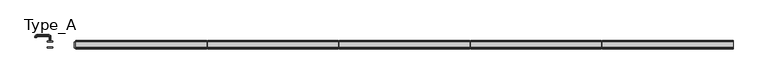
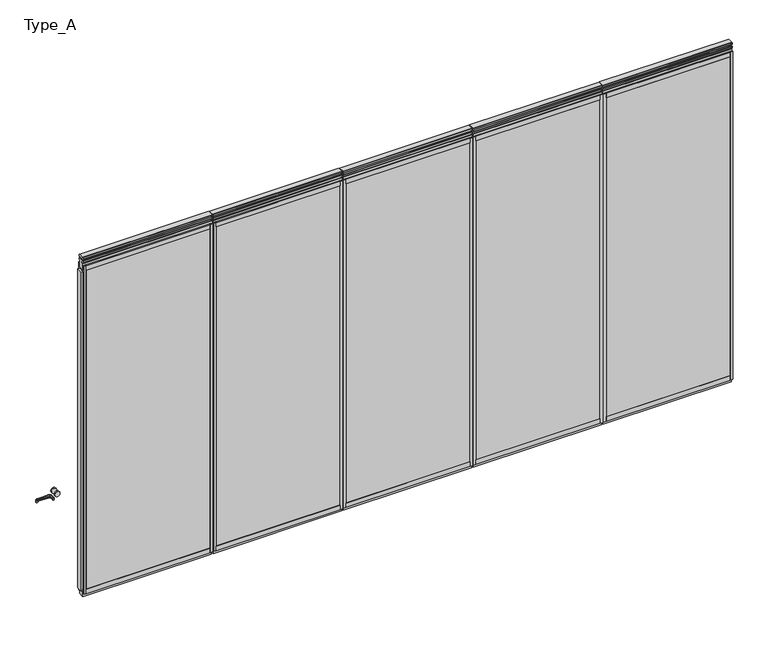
"""IFC4 building model written with IfcOpenShell, lengths in millimetres: proxy geometry, Planner Wall_ダブルガラス(Door) : Type_A."""

from ifc_helpers import new_model, si_unit, point, frame, frame_2d, origin, origin_with_axes, place, context, project, spatial, polyline, circle_curve, ellipse_curve, trimmed, segment, composite_curve, outline, extrude, source, transform, mapped, element, save
from ifc_brep_helpers import plane_surface, cylinder_surface, revolved_surface, advanced_brep


def type_a_e4121470(model_context):
    return source(origin(), model_context, "Body", "SolidModel", [
        extrude(outline(polyline([(1127.9285714, -25.0), (1127.9285714, 25.0), (2220.8571429, 25.0), (2220.8571429, -25.0), (1127.9285714, -25.0)])), origin_with_axes(), (0.0, 0.0, 1.0), 65.0),
        extrude(outline(polyline([(2204.3571429, 25.0), (1149.9285714, 25.0), (1149.9285714, 35.0), (2204.3571429, 35.0), (2204.3571429, 25.0)])), frame((0.0, 0.0, 2935.0), z_axis=(0.0, 0.0, 1.0), x_axis=(1.0, 0.0, 0.0)), (0.0, 0.0, 1.0), 40.0),
        extrude(outline(polyline([(2204.3571429, 25.0), (1149.9285714, 25.0), (1149.9285714, 35.0), (2204.3571429, 35.0), (2204.3571429, 25.0)])), frame((0.0, 0.0, 25.0), z_axis=(0.0, 0.0, 1.0), x_axis=(1.0, 0.0, 0.0)), (0.0, 0.0, 1.0), 40.0),
        extrude(outline(polyline([(1167.9285714, -27.0), (1149.9285714, -27.0), (1149.9285714, 27.0), (1167.9285714, 27.0), (1167.9285714, -27.0)])), frame((0.0, 0.0, 65.0), z_axis=(0.0, 0.0, 1.0), x_axis=(1.0, 0.0, 0.0)), (0.0, 0.0, 1.0), 2870.0),
        extrude(outline(polyline([(2204.3571429, -27.0), (2186.3571429, -27.0), (2186.3571429, 27.0), (2204.3571429, 27.0), (2204.3571429, -27.0)])), frame((0.0, 0.0, 65.0), z_axis=(0.0, 0.0, 1.0), x_axis=(1.0, 0.0, 0.0)), (0.0, 0.0, 1.0), 2870.0),
        extrude(outline(polyline([(2186.3571429, -27.0), (1167.9285714, -27.0), (1167.9285714, 27.0), (2186.3571429, 27.0), (2186.3571429, -27.0)])), frame((0.0, 0.0, 65.0), z_axis=(0.0, 0.0, 1.0), x_axis=(1.0, 0.0, 0.0)), (0.0, 0.0, 1.0), 102.0),
        extrude(outline(polyline([(2186.3571429, -27.0), (1167.9285714, -27.0), (1167.9285714, 27.0), (2186.3571429, 27.0), (2186.3571429, -27.0)])), frame((0.0, 0.0, 2833.0), z_axis=(0.0, 0.0, 1.0), x_axis=(1.0, 0.0, 0.0)), (0.0, 0.0, 1.0), 102.0),
        extrude(outline(composite_curve([segment(polyline([(23.5, 3050.1000003), (26.5, 3047.1000003), (26.5, 3032.6)]), True, "CONTINUOUS"), segment(trimmed(circle_curve(frame_2d((25.0, 3032.6)), 1.5), [point((26.5, 3032.6))], [point((25.0, 3031.1))], False, "CARTESIAN"), True, "CONTINUOUS"), segment(polyline([(25.0, 3031.1), (9.0, 3031.1), (9.0, 3019.1000003), (23.5, 3019.1000003), (26.5, 3016.1000003), (26.5, 3001.5)]), True, "CONTINUOUS"), segment(trimmed(circle_curve(frame_2d((25.0, 3001.5)), 1.5), [point((26.5, 3001.5))], [point((25.0, 3000.0))], False, "CARTESIAN"), True, "CONTINUOUS"), segment(polyline([(25.0, 3000.0), (7.5, 3000.0), (7.5, 2994.5), (25.0, 2994.5), (25.0, 2935.0), (-25.0, 2935.0), (-25.0, 2994.5), (-7.5, 2994.5), (-7.5, 3000.0), (-25.0, 3000.0)]), True, "CONTINUOUS"), segment(trimmed(circle_curve(frame_2d((-25.0, 3001.5)), 1.5), [point((-25.0, 3000.0))], [point((-26.5, 3001.5))], False, "CARTESIAN"), True, "CONTINUOUS"), segment(polyline([(-26.5, 3001.5), (-26.5, 3016.1000003), (-23.5, 3019.1000003), (-9.0, 3019.1000003), (-9.0, 3031.1), (-25.0, 3031.1)]), True, "CONTINUOUS"), segment(trimmed(circle_curve(frame_2d((-25.0, 3032.6)), 1.5), [point((-25.0, 3031.1))], [point((-26.5, 3032.6))], False, "CARTESIAN"), True, "CONTINUOUS"), segment(polyline([(-26.5, 3032.6), (-26.5, 3047.1000003), (-23.5, 3050.1000003), (23.5, 3050.1000003)]), True, "CONTINUOUS")], self_intersect=False)), frame((1127.9285714, 0.0, 0.0), z_axis=(1.0, 0.0, 0.0), x_axis=(0.0, 1.0, 0.0)), (0.0, 0.0, 1.0), 1098.4285714),
        extrude(outline(polyline([(2204.3571429, 27.5), (1149.9285714, 27.5), (1149.9285714, 32.5), (2204.3571429, 32.5), (2204.3571429, 27.5)])), frame((0.0, 0.0, 65.0), z_axis=(0.0, 0.0, 1.0), x_axis=(1.0, 0.0, 0.0)), (0.0, 0.0, 1.0), 2870.0),
        extrude(outline(polyline([(2204.3571429, -32.5), (1149.9285714, -32.5), (1149.9285714, -27.5), (2204.3571429, -27.5), (2204.3571429, -32.5)])), frame((0.0, 0.0, 65.0), z_axis=(0.0, 0.0, 1.0), x_axis=(1.0, 0.0, 0.0)), (0.0, 0.0, 1.0), 2870.0),
        extrude(outline(polyline([(2204.3571429, -35.0), (1149.9285714, -35.0), (1149.9285714, -25.0), (2204.3571429, -25.0), (2204.3571429, -35.0)])), frame((0.0, 0.0, 2935.0), z_axis=(0.0, 0.0, 1.0), x_axis=(1.0, 0.0, 0.0)), (0.0, 0.0, 1.0), 40.0),
        extrude(outline(polyline([(2204.3571429, -35.0), (1149.9285714, -35.0), (1149.9285714, -25.0), (2204.3571429, -25.0), (2204.3571429, -35.0)])), frame((0.0, 0.0, 25.0), z_axis=(0.0, 0.0, 1.0), x_axis=(1.0, 0.0, 0.0)), (0.0, 0.0, 1.0), 40.0),
        extrude(outline(polyline([(1114.4285714, -25.0), (1114.4285714, 25.0), (1127.9285714, 25.0), (1127.9285714, -25.0), (1114.4285714, -25.0)])), frame((0.0, 0.0, 53.0), z_axis=(0.0, 0.0, 1.0), x_axis=(1.0, 0.0, 0.0)), (0.0, 0.0, 1.0), 2869.0),
        extrude(outline(polyline([(2204.3571429, 35.0), (2226.3571429, 35.0), (2226.3571429, 25.0), (2204.3571429, 25.0), (2204.3571429, 35.0)])), frame((0.0, 0.0, 25.0), z_axis=(0.0, 0.0, 1.0), x_axis=(1.0, 0.0, 0.0)), (0.0, 0.0, 1.0), 2950.0),
        extrude(outline(polyline([(2204.3571429, -35.0), (2204.3571429, -25.0), (2226.3571429, -25.0), (2226.3571429, -35.0), (2204.3571429, -35.0)])), frame((0.0, 0.0, 25.0), z_axis=(0.0, 0.0, 1.0), x_axis=(1.0, 0.0, 0.0)), (0.0, 0.0, 1.0), 2950.0),
        extrude(outline(polyline([(1127.9285714, -35.0), (1127.9285714, -25.0), (1149.9285714, -25.0), (1149.9285714, -35.0), (1127.9285714, -35.0)])), frame((0.0, 0.0, 25.0), z_axis=(0.0, 0.0, 1.0), x_axis=(1.0, 0.0, 0.0)), (0.0, 0.0, 1.0), 2950.0),
        extrude(outline(polyline([(1127.9285714, 25.0), (1127.9285714, 35.0), (1149.9285714, 35.0), (1149.9285714, 25.0), (1127.9285714, 25.0)])), frame((0.0, 0.0, 25.0), z_axis=(0.0, 0.0, 1.0), x_axis=(1.0, 0.0, 0.0)), (0.0, 0.0, 1.0), 2950.0),
        extrude(outline(polyline([(2234.3571429, -25.0), (2234.3571429, 25.0), (3327.2857143, 25.0), (3327.2857143, -25.0), (2234.3571429, -25.0)])), origin_with_axes(), (0.0, 0.0, 1.0), 65.0),
        extrude(outline(polyline([(3310.7857143, 25.0), (2256.3571429, 25.0), (2256.3571429, 35.0), (3310.7857143, 35.0), (3310.7857143, 25.0)])), frame((0.0, 0.0, 2935.0), z_axis=(0.0, 0.0, 1.0), x_axis=(1.0, 0.0, 0.0)), (0.0, 0.0, 1.0), 40.0),
        extrude(outline(polyline([(3310.7857143, 25.0), (2256.3571429, 25.0), (2256.3571429, 35.0), (3310.7857143, 35.0), (3310.7857143, 25.0)])), frame((0.0, 0.0, 25.0), z_axis=(0.0, 0.0, 1.0), x_axis=(1.0, 0.0, 0.0)), (0.0, 0.0, 1.0), 40.0),
        extrude(outline(polyline([(2274.3571429, -27.0), (2256.3571429, -27.0), (2256.3571429, 27.0), (2274.3571429, 27.0), (2274.3571429, -27.0)])), frame((0.0, 0.0, 65.0), z_axis=(0.0, 0.0, 1.0), x_axis=(1.0, 0.0, 0.0)), (0.0, 0.0, 1.0), 2870.0),
        extrude(outline(polyline([(3310.7857143, -27.0), (3292.7857143, -27.0), (3292.7857143, 27.0), (3310.7857143, 27.0), (3310.7857143, -27.0)])), frame((0.0, 0.0, 65.0), z_axis=(0.0, 0.0, 1.0), x_axis=(1.0, 0.0, 0.0)), (0.0, 0.0, 1.0), 2870.0),
        extrude(outline(polyline([(3292.7857143, -27.0), (2274.3571429, -27.0), (2274.3571429, 27.0), (3292.7857143, 27.0), (3292.7857143, -27.0)])), frame((0.0, 0.0, 65.0), z_axis=(0.0, 0.0, 1.0), x_axis=(1.0, 0.0, 0.0)), (0.0, 0.0, 1.0), 102.0),
        extrude(outline(polyline([(3292.7857143, -27.0), (2274.3571429, -27.0), (2274.3571429, 27.0), (3292.7857143, 27.0), (3292.7857143, -27.0)])), frame((0.0, 0.0, 2833.0), z_axis=(0.0, 0.0, 1.0), x_axis=(1.0, 0.0, 0.0)), (0.0, 0.0, 1.0), 102.0),
        extrude(outline(composite_curve([segment(polyline([(23.5, 3050.1000003), (26.5, 3047.1000003), (26.5, 3032.6)]), True, "CONTINUOUS"), segment(trimmed(circle_curve(frame_2d((25.0, 3032.6)), 1.5), [point((26.5, 3032.6))], [point((25.0, 3031.1))], False, "CARTESIAN"), True, "CONTINUOUS"), segment(polyline([(25.0, 3031.1), (9.0, 3031.1), (9.0, 3019.1000003), (23.5, 3019.1000003), (26.5, 3016.1000003), (26.5, 3001.5)]), True, "CONTINUOUS"), segment(trimmed(circle_curve(frame_2d((25.0, 3001.5)), 1.5), [point((26.5, 3001.5))], [point((25.0, 3000.0))], False, "CARTESIAN"), True, "CONTINUOUS"), segment(polyline([(25.0, 3000.0), (7.5, 3000.0), (7.5, 2994.5), (25.0, 2994.5), (25.0, 2935.0), (-25.0, 2935.0), (-25.0, 2994.5), (-7.5, 2994.5), (-7.5, 3000.0), (-25.0, 3000.0)]), True, "CONTINUOUS"), segment(trimmed(circle_curve(frame_2d((-25.0, 3001.5)), 1.5), [point((-25.0, 3000.0))], [point((-26.5, 3001.5))], False, "CARTESIAN"), True, "CONTINUOUS"), segment(polyline([(-26.5, 3001.5), (-26.5, 3016.1000003), (-23.5, 3019.1000003), (-9.0, 3019.1000003), (-9.0, 3031.1), (-25.0, 3031.1)]), True, "CONTINUOUS"), segment(trimmed(circle_curve(frame_2d((-25.0, 3032.6)), 1.5), [point((-25.0, 3031.1))], [point((-26.5, 3032.6))], False, "CARTESIAN"), True, "CONTINUOUS"), segment(polyline([(-26.5, 3032.6), (-26.5, 3047.1000003), (-23.5, 3050.1000003), (23.5, 3050.1000003)]), True, "CONTINUOUS")], self_intersect=False)), frame((2234.3571429, 0.0, 0.0), z_axis=(1.0, 0.0, 0.0), x_axis=(0.0, 1.0, 0.0)), (0.0, 0.0, 1.0), 1098.4285714),
        extrude(outline(polyline([(3310.7857143, 27.5), (2256.3571429, 27.5), (2256.3571429, 32.5), (3310.7857143, 32.5), (3310.7857143, 27.5)])), frame((0.0, 0.0, 65.0), z_axis=(0.0, 0.0, 1.0), x_axis=(1.0, 0.0, 0.0)), (0.0, 0.0, 1.0), 2870.0),
        extrude(outline(polyline([(3310.7857143, -32.5), (2256.3571429, -32.5), (2256.3571429, -27.5), (3310.7857143, -27.5), (3310.7857143, -32.5)])), frame((0.0, 0.0, 65.0), z_axis=(0.0, 0.0, 1.0), x_axis=(1.0, 0.0, 0.0)), (0.0, 0.0, 1.0), 2870.0),
        extrude(outline(polyline([(3310.7857143, -35.0), (2256.3571429, -35.0), (2256.3571429, -25.0), (3310.7857143, -25.0), (3310.7857143, -35.0)])), frame((0.0, 0.0, 2935.0), z_axis=(0.0, 0.0, 1.0), x_axis=(1.0, 0.0, 0.0)), (0.0, 0.0, 1.0), 40.0),
        extrude(outline(polyline([(3310.7857143, -35.0), (2256.3571429, -35.0), (2256.3571429, -25.0), (3310.7857143, -25.0), (3310.7857143, -35.0)])), frame((0.0, 0.0, 25.0), z_axis=(0.0, 0.0, 1.0), x_axis=(1.0, 0.0, 0.0)), (0.0, 0.0, 1.0), 40.0),
        extrude(outline(polyline([(2220.8571429, -25.0), (2220.8571429, 25.0), (2234.3571429, 25.0), (2234.3571429, -25.0), (2220.8571429, -25.0)])), frame((0.0, 0.0, 53.0), z_axis=(0.0, 0.0, 1.0), x_axis=(1.0, 0.0, 0.0)), (0.0, 0.0, 1.0), 2869.0),
        extrude(outline(polyline([(3310.7857143, 35.0), (3332.7857143, 35.0), (3332.7857143, 25.0), (3310.7857143, 25.0), (3310.7857143, 35.0)])), frame((0.0, 0.0, 25.0), z_axis=(0.0, 0.0, 1.0), x_axis=(1.0, 0.0, 0.0)), (0.0, 0.0, 1.0), 2950.0),
        extrude(outline(polyline([(3310.7857143, -35.0), (3310.7857143, -25.0), (3332.7857143, -25.0), (3332.7857143, -35.0), (3310.7857143, -35.0)])), frame((0.0, 0.0, 25.0), z_axis=(0.0, 0.0, 1.0), x_axis=(1.0, 0.0, 0.0)), (0.0, 0.0, 1.0), 2950.0),
        extrude(outline(polyline([(2234.3571429, -35.0), (2234.3571429, -25.0), (2256.3571429, -25.0), (2256.3571429, -35.0), (2234.3571429, -35.0)])), frame((0.0, 0.0, 25.0), z_axis=(0.0, 0.0, 1.0), x_axis=(1.0, 0.0, 0.0)), (0.0, 0.0, 1.0), 2950.0),
        extrude(outline(polyline([(2234.3571429, 25.0), (2234.3571429, 35.0), (2256.3571429, 35.0), (2256.3571429, 25.0), (2234.3571429, 25.0)])), frame((0.0, 0.0, 25.0), z_axis=(0.0, 0.0, 1.0), x_axis=(1.0, 0.0, 0.0)), (0.0, 0.0, 1.0), 2950.0),
        extrude(outline(polyline([(3340.7857143, -25.0), (3340.7857143, 25.0), (4433.7142857, 25.0), (4433.7142857, -25.0), (3340.7857143, -25.0)])), origin_with_axes(), (0.0, 0.0, 1.0), 65.0),
        extrude(outline(polyline([(4417.2142857, 25.0), (3362.7857143, 25.0), (3362.7857143, 35.0), (4417.2142857, 35.0), (4417.2142857, 25.0)])), frame((0.0, 0.0, 2935.0), z_axis=(0.0, 0.0, 1.0), x_axis=(1.0, 0.0, 0.0)), (0.0, 0.0, 1.0), 40.0),
        extrude(outline(polyline([(4417.2142857, 25.0), (3362.7857143, 25.0), (3362.7857143, 35.0), (4417.2142857, 35.0), (4417.2142857, 25.0)])), frame((0.0, 0.0, 25.0), z_axis=(0.0, 0.0, 1.0), x_axis=(1.0, 0.0, 0.0)), (0.0, 0.0, 1.0), 40.0),
        extrude(outline(polyline([(3380.7857143, -27.0), (3362.7857143, -27.0), (3362.7857143, 27.0), (3380.7857143, 27.0), (3380.7857143, -27.0)])), frame((0.0, 0.0, 65.0), z_axis=(0.0, 0.0, 1.0), x_axis=(1.0, 0.0, 0.0)), (0.0, 0.0, 1.0), 2870.0),
        extrude(outline(polyline([(4417.2142857, -27.0), (4399.2142857, -27.0), (4399.2142857, 27.0), (4417.2142857, 27.0), (4417.2142857, -27.0)])), frame((0.0, 0.0, 65.0), z_axis=(0.0, 0.0, 1.0), x_axis=(1.0, 0.0, 0.0)), (0.0, 0.0, 1.0), 2870.0),
        extrude(outline(polyline([(4399.2142857, -27.0), (3380.7857143, -27.0), (3380.7857143, 27.0), (4399.2142857, 27.0), (4399.2142857, -27.0)])), frame((0.0, 0.0, 65.0), z_axis=(0.0, 0.0, 1.0), x_axis=(1.0, 0.0, 0.0)), (0.0, 0.0, 1.0), 102.0),
        extrude(outline(polyline([(4399.2142857, -27.0), (3380.7857143, -27.0), (3380.7857143, 27.0), (4399.2142857, 27.0), (4399.2142857, -27.0)])), frame((0.0, 0.0, 2833.0), z_axis=(0.0, 0.0, 1.0), x_axis=(1.0, 0.0, 0.0)), (0.0, 0.0, 1.0), 102.0),
        extrude(outline(composite_curve([segment(polyline([(23.5, 3050.1000003), (26.5, 3047.1000003), (26.5, 3032.6)]), True, "CONTINUOUS"), segment(trimmed(circle_curve(frame_2d((25.0, 3032.6)), 1.5), [point((26.5, 3032.6))], [point((25.0, 3031.1))], False, "CARTESIAN"), True, "CONTINUOUS"), segment(polyline([(25.0, 3031.1), (9.0, 3031.1), (9.0, 3019.1000003), (23.5, 3019.1000003), (26.5, 3016.1000003), (26.5, 3001.5)]), True, "CONTINUOUS"), segment(trimmed(circle_curve(frame_2d((25.0, 3001.5)), 1.5), [point((26.5, 3001.5))], [point((25.0, 3000.0))], False, "CARTESIAN"), True, "CONTINUOUS"), segment(polyline([(25.0, 3000.0), (7.5, 3000.0), (7.5, 2994.5), (25.0, 2994.5), (25.0, 2935.0), (-25.0, 2935.0), (-25.0, 2994.5), (-7.5, 2994.5), (-7.5, 3000.0), (-25.0, 3000.0)]), True, "CONTINUOUS"), segment(trimmed(circle_curve(frame_2d((-25.0, 3001.5)), 1.5), [point((-25.0, 3000.0))], [point((-26.5, 3001.5))], False, "CARTESIAN"), True, "CONTINUOUS"), segment(polyline([(-26.5, 3001.5), (-26.5, 3016.1000003), (-23.5, 3019.1000003), (-9.0, 3019.1000003), (-9.0, 3031.1), (-25.0, 3031.1)]), True, "CONTINUOUS"), segment(trimmed(circle_curve(frame_2d((-25.0, 3032.6)), 1.5), [point((-25.0, 3031.1))], [point((-26.5, 3032.6))], False, "CARTESIAN"), True, "CONTINUOUS"), segment(polyline([(-26.5, 3032.6), (-26.5, 3047.1000003), (-23.5, 3050.1000003), (23.5, 3050.1000003)]), True, "CONTINUOUS")], self_intersect=False)), frame((3340.7857143, 0.0, 0.0), z_axis=(1.0, 0.0, 0.0), x_axis=(0.0, 1.0, 0.0)), (0.0, 0.0, 1.0), 1098.4285714),
        extrude(outline(polyline([(4417.2142857, 27.5), (3362.7857143, 27.5), (3362.7857143, 32.5), (4417.2142857, 32.5), (4417.2142857, 27.5)])), frame((0.0, 0.0, 65.0), z_axis=(0.0, 0.0, 1.0), x_axis=(1.0, 0.0, 0.0)), (0.0, 0.0, 1.0), 2870.0),
        extrude(outline(polyline([(4417.2142857, -32.5), (3362.7857143, -32.5), (3362.7857143, -27.5), (4417.2142857, -27.5), (4417.2142857, -32.5)])), frame((0.0, 0.0, 65.0), z_axis=(0.0, 0.0, 1.0), x_axis=(1.0, 0.0, 0.0)), (0.0, 0.0, 1.0), 2870.0),
        extrude(outline(polyline([(4417.2142857, -35.0), (3362.7857143, -35.0), (3362.7857143, -25.0), (4417.2142857, -25.0), (4417.2142857, -35.0)])), frame((0.0, 0.0, 2935.0), z_axis=(0.0, 0.0, 1.0), x_axis=(1.0, 0.0, 0.0)), (0.0, 0.0, 1.0), 40.0),
        extrude(outline(polyline([(4417.2142857, -35.0), (3362.7857143, -35.0), (3362.7857143, -25.0), (4417.2142857, -25.0), (4417.2142857, -35.0)])), frame((0.0, 0.0, 25.0), z_axis=(0.0, 0.0, 1.0), x_axis=(1.0, 0.0, 0.0)), (0.0, 0.0, 1.0), 40.0),
        extrude(outline(polyline([(3327.2857143, -25.0), (3327.2857143, 25.0), (3340.7857143, 25.0), (3340.7857143, -25.0), (3327.2857143, -25.0)])), frame((0.0, 0.0, 53.0), z_axis=(0.0, 0.0, 1.0), x_axis=(1.0, 0.0, 0.0)), (0.0, 0.0, 1.0), 2869.0),
        extrude(outline(polyline([(4417.2142857, 35.0), (4439.2142857, 35.0), (4439.2142857, 25.0), (4417.2142857, 25.0), (4417.2142857, 35.0)])), frame((0.0, 0.0, 25.0), z_axis=(0.0, 0.0, 1.0), x_axis=(1.0, 0.0, 0.0)), (0.0, 0.0, 1.0), 2950.0),
        extrude(outline(polyline([(4417.2142857, -35.0), (4417.2142857, -25.0), (4439.2142857, -25.0), (4439.2142857, -35.0), (4417.2142857, -35.0)])), frame((0.0, 0.0, 25.0), z_axis=(0.0, 0.0, 1.0), x_axis=(1.0, 0.0, 0.0)), (0.0, 0.0, 1.0), 2950.0),
        extrude(outline(polyline([(3340.7857143, -35.0), (3340.7857143, -25.0), (3362.7857143, -25.0), (3362.7857143, -35.0), (3340.7857143, -35.0)])), frame((0.0, 0.0, 25.0), z_axis=(0.0, 0.0, 1.0), x_axis=(1.0, 0.0, 0.0)), (0.0, 0.0, 1.0), 2950.0),
        extrude(outline(polyline([(3340.7857143, 25.0), (3340.7857143, 35.0), (3362.7857143, 35.0), (3362.7857143, 25.0), (3340.7857143, 25.0)])), frame((0.0, 0.0, 25.0), z_axis=(0.0, 0.0, 1.0), x_axis=(1.0, 0.0, 0.0)), (0.0, 0.0, 1.0), 2950.0),
        extrude(outline(polyline([(4447.2142857, -25.0), (4447.2142857, 25.0), (5540.1428571, 25.0), (5540.1428571, -25.0), (4447.2142857, -25.0)])), origin_with_axes(), (0.0, 0.0, 1.0), 65.0),
        extrude(outline(polyline([(5523.6428571, 25.0), (4469.2142857, 25.0), (4469.2142857, 35.0), (5523.6428571, 35.0), (5523.6428571, 25.0)])), frame((0.0, 0.0, 2935.0), z_axis=(0.0, 0.0, 1.0), x_axis=(1.0, 0.0, 0.0)), (0.0, 0.0, 1.0), 40.0),
        extrude(outline(polyline([(5523.6428571, 25.0), (4469.2142857, 25.0), (4469.2142857, 35.0), (5523.6428571, 35.0), (5523.6428571, 25.0)])), frame((0.0, 0.0, 25.0), z_axis=(0.0, 0.0, 1.0), x_axis=(1.0, 0.0, 0.0)), (0.0, 0.0, 1.0), 40.0),
        extrude(outline(polyline([(4487.2142857, -27.0), (4469.2142857, -27.0), (4469.2142857, 27.0), (4487.2142857, 27.0), (4487.2142857, -27.0)])), frame((0.0, 0.0, 65.0), z_axis=(0.0, 0.0, 1.0), x_axis=(1.0, 0.0, 0.0)), (0.0, 0.0, 1.0), 2870.0),
        extrude(outline(polyline([(5523.6428571, -27.0), (5505.6428571, -27.0), (5505.6428571, 27.0), (5523.6428571, 27.0), (5523.6428571, -27.0)])), frame((0.0, 0.0, 65.0), z_axis=(0.0, 0.0, 1.0), x_axis=(1.0, 0.0, 0.0)), (0.0, 0.0, 1.0), 2870.0),
        extrude(outline(polyline([(5505.6428571, -27.0), (4487.2142857, -27.0), (4487.2142857, 27.0), (5505.6428571, 27.0), (5505.6428571, -27.0)])), frame((0.0, 0.0, 65.0), z_axis=(0.0, 0.0, 1.0), x_axis=(1.0, 0.0, 0.0)), (0.0, 0.0, 1.0), 102.0),
        extrude(outline(polyline([(5505.6428571, -27.0), (4487.2142857, -27.0), (4487.2142857, 27.0), (5505.6428571, 27.0), (5505.6428571, -27.0)])), frame((0.0, 0.0, 2833.0), z_axis=(0.0, 0.0, 1.0), x_axis=(1.0, 0.0, 0.0)), (0.0, 0.0, 1.0), 102.0),
        extrude(outline(composite_curve([segment(polyline([(23.5, 3050.1000003), (26.5, 3047.1000003), (26.5, 3032.6)]), True, "CONTINUOUS"), segment(trimmed(circle_curve(frame_2d((25.0, 3032.6)), 1.5), [point((26.5, 3032.6))], [point((25.0, 3031.1))], False, "CARTESIAN"), True, "CONTINUOUS"), segment(polyline([(25.0, 3031.1), (9.0, 3031.1), (9.0, 3019.1000003), (23.5, 3019.1000003), (26.5, 3016.1000003), (26.5, 3001.5)]), True, "CONTINUOUS"), segment(trimmed(circle_curve(frame_2d((25.0, 3001.5)), 1.5), [point((26.5, 3001.5))], [point((25.0, 3000.0))], False, "CARTESIAN"), True, "CONTINUOUS"), segment(polyline([(25.0, 3000.0), (7.5, 3000.0), (7.5, 2994.5), (25.0, 2994.5), (25.0, 2935.0), (-25.0, 2935.0), (-25.0, 2994.5), (-7.5, 2994.5), (-7.5, 3000.0), (-25.0, 3000.0)]), True, "CONTINUOUS"), segment(trimmed(circle_curve(frame_2d((-25.0, 3001.5)), 1.5), [point((-25.0, 3000.0))], [point((-26.5, 3001.5))], False, "CARTESIAN"), True, "CONTINUOUS"), segment(polyline([(-26.5, 3001.5), (-26.5, 3016.1000003), (-23.5, 3019.1000003), (-9.0, 3019.1000003), (-9.0, 3031.1), (-25.0, 3031.1)]), True, "CONTINUOUS"), segment(trimmed(circle_curve(frame_2d((-25.0, 3032.6)), 1.5), [point((-25.0, 3031.1))], [point((-26.5, 3032.6))], False, "CARTESIAN"), True, "CONTINUOUS"), segment(polyline([(-26.5, 3032.6), (-26.5, 3047.1000003), (-23.5, 3050.1000003), (23.5, 3050.1000003)]), True, "CONTINUOUS")], self_intersect=False)), frame((4447.2142857, 0.0, 0.0), z_axis=(1.0, 0.0, 0.0), x_axis=(0.0, 1.0, 0.0)), (0.0, 0.0, 1.0), 1098.4285714),
        extrude(outline(polyline([(5523.6428571, 27.5), (4469.2142857, 27.5), (4469.2142857, 32.5), (5523.6428571, 32.5), (5523.6428571, 27.5)])), frame((0.0, 0.0, 65.0), z_axis=(0.0, 0.0, 1.0), x_axis=(1.0, 0.0, 0.0)), (0.0, 0.0, 1.0), 2870.0),
        extrude(outline(polyline([(5523.6428571, -32.5), (4469.2142857, -32.5), (4469.2142857, -27.5), (5523.6428571, -27.5), (5523.6428571, -32.5)])), frame((0.0, 0.0, 65.0), z_axis=(0.0, 0.0, 1.0), x_axis=(1.0, 0.0, 0.0)), (0.0, 0.0, 1.0), 2870.0),
        extrude(outline(polyline([(5523.6428571, -35.0), (4469.2142857, -35.0), (4469.2142857, -25.0), (5523.6428571, -25.0), (5523.6428571, -35.0)])), frame((0.0, 0.0, 2935.0), z_axis=(0.0, 0.0, 1.0), x_axis=(1.0, 0.0, 0.0)), (0.0, 0.0, 1.0), 40.0),
        extrude(outline(polyline([(5523.6428571, -35.0), (4469.2142857, -35.0), (4469.2142857, -25.0), (5523.6428571, -25.0), (5523.6428571, -35.0)])), frame((0.0, 0.0, 25.0), z_axis=(0.0, 0.0, 1.0), x_axis=(1.0, 0.0, 0.0)), (0.0, 0.0, 1.0), 40.0),
        extrude(outline(polyline([(4433.7142857, -25.0), (4433.7142857, 25.0), (4447.2142857, 25.0), (4447.2142857, -25.0), (4433.7142857, -25.0)])), frame((0.0, 0.0, 53.0), z_axis=(0.0, 0.0, 1.0), x_axis=(1.0, 0.0, 0.0)), (0.0, 0.0, 1.0), 2869.0),
        extrude(outline(polyline([(5523.6428571, 35.0), (5545.6428571, 35.0), (5545.6428571, 25.0), (5523.6428571, 25.0), (5523.6428571, 35.0)])), frame((0.0, 0.0, 25.0), z_axis=(0.0, 0.0, 1.0), x_axis=(1.0, 0.0, 0.0)), (0.0, 0.0, 1.0), 2950.0),
        extrude(outline(polyline([(5523.6428571, -35.0), (5523.6428571, -25.0), (5545.6428571, -25.0), (5545.6428571, -35.0), (5523.6428571, -35.0)])), frame((0.0, 0.0, 25.0), z_axis=(0.0, 0.0, 1.0), x_axis=(1.0, 0.0, 0.0)), (0.0, 0.0, 1.0), 2950.0),
        extrude(outline(polyline([(4447.2142857, -35.0), (4447.2142857, -25.0), (4469.2142857, -25.0), (4469.2142857, -35.0), (4447.2142857, -35.0)])), frame((0.0, 0.0, 25.0), z_axis=(0.0, 0.0, 1.0), x_axis=(1.0, 0.0, 0.0)), (0.0, 0.0, 1.0), 2950.0),
        extrude(outline(polyline([(4447.2142857, 25.0), (4447.2142857, 35.0), (4469.2142857, 35.0), (4469.2142857, 25.0), (4447.2142857, 25.0)])), frame((0.0, 0.0, 25.0), z_axis=(0.0, 0.0, 1.0), x_axis=(1.0, 0.0, 0.0)), (0.0, 0.0, 1.0), 2950.0),
        extrude(outline(polyline([(5553.6428571, -25.0), (5553.6428571, 25.0), (6646.5714286, 25.0), (6646.5714286, -25.0), (5553.6428571, -25.0)])), origin_with_axes(), (0.0, 0.0, 1.0), 65.0),
        extrude(outline(polyline([(6630.0714286, 25.0), (5575.6428571, 25.0), (5575.6428571, 35.0), (6630.0714286, 35.0), (6630.0714286, 25.0)])), frame((0.0, 0.0, 2935.0), z_axis=(0.0, 0.0, 1.0), x_axis=(1.0, 0.0, 0.0)), (0.0, 0.0, 1.0), 40.0),
        extrude(outline(polyline([(6630.0714286, 25.0), (5575.6428571, 25.0), (5575.6428571, 35.0), (6630.0714286, 35.0), (6630.0714286, 25.0)])), frame((0.0, 0.0, 25.0), z_axis=(0.0, 0.0, 1.0), x_axis=(1.0, 0.0, 0.0)), (0.0, 0.0, 1.0), 40.0),
        extrude(outline(polyline([(5593.6428571, -27.0), (5575.6428571, -27.0), (5575.6428571, 27.0), (5593.6428571, 27.0), (5593.6428571, -27.0)])), frame((0.0, 0.0, 65.0), z_axis=(0.0, 0.0, 1.0), x_axis=(1.0, 0.0, 0.0)), (0.0, 0.0, 1.0), 2870.0),
        extrude(outline(polyline([(6630.0714286, -27.0), (6612.0714286, -27.0), (6612.0714286, 27.0), (6630.0714286, 27.0), (6630.0714286, -27.0)])), frame((0.0, 0.0, 65.0), z_axis=(0.0, 0.0, 1.0), x_axis=(1.0, 0.0, 0.0)), (0.0, 0.0, 1.0), 2870.0),
        extrude(outline(polyline([(6612.0714286, -27.0), (5593.6428571, -27.0), (5593.6428571, 27.0), (6612.0714286, 27.0), (6612.0714286, -27.0)])), frame((0.0, 0.0, 65.0), z_axis=(0.0, 0.0, 1.0), x_axis=(1.0, 0.0, 0.0)), (0.0, 0.0, 1.0), 102.0),
        extrude(outline(polyline([(6612.0714286, -27.0), (5593.6428571, -27.0), (5593.6428571, 27.0), (6612.0714286, 27.0), (6612.0714286, -27.0)])), frame((0.0, 0.0, 2833.0), z_axis=(0.0, 0.0, 1.0), x_axis=(1.0, 0.0, 0.0)), (0.0, 0.0, 1.0), 102.0),
        extrude(outline(composite_curve([segment(polyline([(23.5, 3050.1000003), (26.5, 3047.1000003), (26.5, 3032.6)]), True, "CONTINUOUS"), segment(trimmed(circle_curve(frame_2d((25.0, 3032.6)), 1.5), [point((26.5, 3032.6))], [point((25.0, 3031.1))], False, "CARTESIAN"), True, "CONTINUOUS"), segment(polyline([(25.0, 3031.1), (9.0, 3031.1), (9.0, 3019.1000003), (23.5, 3019.1000003), (26.5, 3016.1000003), (26.5, 3001.5)]), True, "CONTINUOUS"), segment(trimmed(circle_curve(frame_2d((25.0, 3001.5)), 1.5), [point((26.5, 3001.5))], [point((25.0, 3000.0))], False, "CARTESIAN"), True, "CONTINUOUS"), segment(polyline([(25.0, 3000.0), (7.5, 3000.0), (7.5, 2994.5), (25.0, 2994.5), (25.0, 2935.0), (-25.0, 2935.0), (-25.0, 2994.5), (-7.5, 2994.5), (-7.5, 3000.0), (-25.0, 3000.0)]), True, "CONTINUOUS"), segment(trimmed(circle_curve(frame_2d((-25.0, 3001.5)), 1.5), [point((-25.0, 3000.0))], [point((-26.5, 3001.5))], False, "CARTESIAN"), True, "CONTINUOUS"), segment(polyline([(-26.5, 3001.5), (-26.5, 3016.1000003), (-23.5, 3019.1000003), (-9.0, 3019.1000003), (-9.0, 3031.1), (-25.0, 3031.1)]), True, "CONTINUOUS"), segment(trimmed(circle_curve(frame_2d((-25.0, 3032.6)), 1.5), [point((-25.0, 3031.1))], [point((-26.5, 3032.6))], False, "CARTESIAN"), True, "CONTINUOUS"), segment(polyline([(-26.5, 3032.6), (-26.5, 3047.1000003), (-23.5, 3050.1000003), (23.5, 3050.1000003)]), True, "CONTINUOUS")], self_intersect=False)), frame((5553.6428571, 0.0, 0.0), z_axis=(1.0, 0.0, 0.0), x_axis=(0.0, 1.0, 0.0)), (0.0, 0.0, 1.0), 1098.4285714),
        extrude(outline(polyline([(6630.0714286, 27.5), (5575.6428571, 27.5), (5575.6428571, 32.5), (6630.0714286, 32.5), (6630.0714286, 27.5)])), frame((0.0, 0.0, 65.0), z_axis=(0.0, 0.0, 1.0), x_axis=(1.0, 0.0, 0.0)), (0.0, 0.0, 1.0), 2870.0),
        extrude(outline(polyline([(6630.0714286, -32.5), (5575.6428571, -32.5), (5575.6428571, -27.5), (6630.0714286, -27.5), (6630.0714286, -32.5)])), frame((0.0, 0.0, 65.0), z_axis=(0.0, 0.0, 1.0), x_axis=(1.0, 0.0, 0.0)), (0.0, 0.0, 1.0), 2870.0),
        extrude(outline(polyline([(6630.0714286, -35.0), (5575.6428571, -35.0), (5575.6428571, -25.0), (6630.0714286, -25.0), (6630.0714286, -35.0)])), frame((0.0, 0.0, 2935.0), z_axis=(0.0, 0.0, 1.0), x_axis=(1.0, 0.0, 0.0)), (0.0, 0.0, 1.0), 40.0),
        extrude(outline(polyline([(6630.0714286, -35.0), (5575.6428571, -35.0), (5575.6428571, -25.0), (6630.0714286, -25.0), (6630.0714286, -35.0)])), frame((0.0, 0.0, 25.0), z_axis=(0.0, 0.0, 1.0), x_axis=(1.0, 0.0, 0.0)), (0.0, 0.0, 1.0), 40.0),
        extrude(outline(polyline([(5540.1428571, -25.0), (5540.1428571, 25.0), (5553.6428571, 25.0), (5553.6428571, -25.0), (5540.1428571, -25.0)])), frame((0.0, 0.0, 53.0), z_axis=(0.0, 0.0, 1.0), x_axis=(1.0, 0.0, 0.0)), (0.0, 0.0, 1.0), 2869.0),
        extrude(outline(polyline([(6630.0714286, 35.0), (6652.0714286, 35.0), (6652.0714286, 25.0), (6630.0714286, 25.0), (6630.0714286, 35.0)])), frame((0.0, 0.0, 25.0), z_axis=(0.0, 0.0, 1.0), x_axis=(1.0, 0.0, 0.0)), (0.0, 0.0, 1.0), 2950.0),
        extrude(outline(polyline([(6630.0714286, -35.0), (6630.0714286, -25.0), (6652.0714286, -25.0), (6652.0714286, -35.0), (6630.0714286, -35.0)])), frame((0.0, 0.0, 25.0), z_axis=(0.0, 0.0, 1.0), x_axis=(1.0, 0.0, 0.0)), (0.0, 0.0, 1.0), 2950.0),
        extrude(outline(polyline([(5553.6428571, -35.0), (5553.6428571, -25.0), (5575.6428571, -25.0), (5575.6428571, -35.0), (5553.6428571, -35.0)])), frame((0.0, 0.0, 25.0), z_axis=(0.0, 0.0, 1.0), x_axis=(1.0, 0.0, 0.0)), (0.0, 0.0, 1.0), 2950.0),
        extrude(outline(polyline([(5553.6428571, 25.0), (5553.6428571, 35.0), (5575.6428571, 35.0), (5575.6428571, 25.0), (5553.6428571, 25.0)])), frame((0.0, 0.0, 25.0), z_axis=(0.0, 0.0, 1.0), x_axis=(1.0, 0.0, 0.0)), (0.0, 0.0, 1.0), 2950.0),
        extrude(outline(composite_curve([segment(trimmed(circle_curve(frame_2d((1000.0, 909.9285714)), 22.0), [point((1000.0, 931.9285714))], [point((1000.0, 887.9285714))], False, "CARTESIAN"), True, "CONTINUOUS"), segment(trimmed(circle_curve(frame_2d((1000.0, 909.9285714)), 22.0), [point((1000.0, 887.9285714))], [point((1000.0, 931.9285714))], False, "CARTESIAN"), True, "CONTINUOUS")], self_intersect=False)), frame((0.0, 23.5, 0.0), z_axis=(0.0, 1.0, 0.0), x_axis=(0.0, 0.0, 1.0)), (0.0, 0.0, 1.0), 10.0),
        extrude(outline(composite_curve([segment(trimmed(circle_curve(frame_2d((1000.0, 909.9285714)), 22.0), [point((1000.0, 931.9285714))], [point((1000.0, 887.9285714))], False, "CARTESIAN"), True, "CONTINUOUS"), segment(trimmed(circle_curve(frame_2d((1000.0, 909.9285714)), 22.0), [point((1000.0, 887.9285714))], [point((1000.0, 931.9285714))], False, "CARTESIAN"), True, "CONTINUOUS")], self_intersect=False)), frame((0.0, -26.5, 0.0), z_axis=(0.0, 1.0, 0.0), x_axis=(0.0, 0.0, 1.0)), (0.0, 0.0, 1.0), 10.0),
        advanced_brep(
        [(911.9285714, 33.5, 930.0), (907.9285714, 33.5, 930.0), (902.9285714, 33.5, 925.0), (902.9285714, 33.5, 915.0477623), (907.9285714, 33.5, 910.0477623), (911.9285714, 33.5, 910.0477623), (916.9285714, 33.5, 915.0477623), (916.9285714, 33.5, 925.0), (916.9285714, 68.5, 925.0), (911.9285714, 68.5, 930.0), (916.9285714, 68.5, 915.0477623), (911.9285714, 68.5, 910.0477623), (907.9285714, 68.5, 910.0477623), (899.9285714, 76.5, 910.0477623), (799.9285714, 76.5, 910.0477623), (791.9285714, 68.5, 910.0477623), (791.9285714, 63.5, 910.0477623), (787.9285714, 63.5, 910.0477623), (787.9285714, 68.5, 910.0477623), (799.9285714, 80.5, 910.0477623), (899.9285714, 80.5, 910.0477623), (902.9285714, 68.5, 915.0477623), (902.9285714, 68.5, 925.0), (907.9285714, 68.5, 930.0), (899.9285714, 80.5, 930.0), (799.9285714, 80.5, 930.0), (787.9285714, 68.5, 930.0), (787.9285714, 63.5, 930.0), (791.9285714, 63.5, 930.0), (791.9285714, 68.5, 930.0), (799.9285714, 76.5, 930.0), (899.9285714, 76.5, 930.0), (899.9285714, 85.5, 925.0), (899.9285714, 85.5, 915.0477623), (899.9285714, 71.5, 915.0477623), (899.9285714, 71.5, 925.0), (799.9285714, 85.5, 925.0), (799.9285714, 85.5, 915.0477623), (799.9285714, 71.5, 915.0477623), (799.9285714, 71.5, 925.0), (782.9285714, 68.5, 925.0), (782.9285714, 68.5, 915.0477623), (796.9285714, 68.5, 915.0477623), (796.9285714, 68.5, 925.0), (782.9285714, 63.5, 925.0), (782.9285714, 63.5, 915.0477623), (796.9285714, 63.5, 915.0477623), (796.9285714, 63.5, 925.0)],
        [
            (0, 1),
            (1, 2, circle_curve(frame((907.9285714, 33.5, 925.0), z_axis=(0.0, -1.0, 0.0), x_axis=(1.0, 0.0, 0.0)), 5.0)),
            (2, 3),
            (3, 4, circle_curve(frame((907.9285714, 33.5, 915.0477623), z_axis=(0.0, -1.0, 0.0), x_axis=(1.0, 0.0, 0.0)), 5.0)),
            (4, 5),
            (5, 6, circle_curve(frame((911.9285714, 33.5, 915.0477623), z_axis=(0.0, -1.0, 0.0), x_axis=(1.0, 0.0, 0.0)), 5.0)),
            (6, 7),
            (7, 0, circle_curve(frame((911.9285714, 33.5, 925.0), z_axis=(0.0, -1.0, 0.0), x_axis=(1.0, 0.0, 0.0)), 5.0)),
            (7, 8),
            (8, 9, circle_curve(frame((911.9285714, 68.5, 925.0), z_axis=(0.0, -1.0, 0.0), x_axis=(1.0, 0.0, 0.0)), 5.0)),
            (9, 0),
            (6, 10),
            (10, 8),
            (5, 11),
            (11, 10, circle_curve(frame((911.9285714, 68.5, 915.0477623), z_axis=(0.0, -1.0, 0.0), x_axis=(1.0, 0.0, 0.0)), 5.0)),
            (4, 12),
            (12, 13, circle_curve(frame((899.9285714, 68.5, 910.0477623), z_axis=(0.0, 0.0, 1.0), x_axis=(1.0, 0.0, 0.0)), 8.0)),
            (13, 14),
            (14, 15, circle_curve(frame((799.9285714, 68.5, 910.0477623), z_axis=(0.0, 0.0, 1.0), x_axis=(0.0, 1.0, 0.0)), 8.0)),
            (15, 16),
            (16, 17),
            (17, 18),
            (18, 19, circle_curve(frame((799.9285714, 68.5, 910.0477623), z_axis=(0.0, 0.0, -1.0), x_axis=(0.0, 1.0, 0.0)), 12.0)),
            (19, 20),
            (20, 11, circle_curve(frame((899.9285714, 68.5, 910.0477623), z_axis=(0.0, 0.0, -1.0), x_axis=(1.0, 0.0, 0.0)), 12.0)),
            (3, 21),
            (21, 12, circle_curve(frame((907.9285714, 68.5, 915.0477623), z_axis=(0.0, -1.0, 0.0), x_axis=(1.0, 0.0, 0.0)), 5.0)),
            (2, 22),
            (22, 21),
            (1, 23),
            (23, 22, circle_curve(frame((907.9285714, 68.5, 925.0), z_axis=(0.0, -1.0, 0.0), x_axis=(1.0, 0.0, 0.0)), 5.0)),
            (9, 24, circle_curve(frame((899.9285714, 68.5, 930.0), z_axis=(0.0, 0.0, 1.0), x_axis=(1.0, 0.0, 0.0)), 12.0)),
            (24, 25),
            (25, 26, circle_curve(frame((799.9285714, 68.5, 930.0), z_axis=(0.0, 0.0, 1.0), x_axis=(0.0, 1.0, 0.0)), 12.0)),
            (26, 27),
            (27, 28),
            (28, 29),
            (29, 30, circle_curve(frame((799.9285714, 68.5, 930.0), z_axis=(0.0, 0.0, -1.0), x_axis=(0.0, 1.0, 0.0)), 8.0)),
            (30, 31),
            (31, 23, circle_curve(frame((899.9285714, 68.5, 930.0), z_axis=(0.0, 0.0, -1.0), x_axis=(1.0, 0.0, 0.0)), 8.0)),
            (32, 24, circle_curve(frame((899.9285714, 80.5, 925.0), z_axis=(1.0, 0.0, 0.0), x_axis=(0.0, 1.0, 0.0)), 5.0)),
            (8, 32, circle_curve(frame((899.9285714, 68.5, 925.0), z_axis=(0.0, 0.0, 1.0), x_axis=(1.0, 0.0, 0.0)), 17.0)),
            (33, 32),
            (10, 33, circle_curve(frame((899.9285714, 68.5, 915.0477623), z_axis=(0.0, 0.0, 1.0), x_axis=(1.0, 0.0, 0.0)), 17.0)),
            (20, 33, circle_curve(frame((899.9285714, 80.5, 915.0477623), z_axis=(1.0, 0.0, 0.0), x_axis=(0.0, 1.0, 0.0)), 5.0)),
            (34, 13, circle_curve(frame((899.9285714, 76.5, 915.0477623), z_axis=(1.0, 0.0, 0.0), x_axis=(0.0, 1.0, 0.0)), 5.0)),
            (21, 34, circle_curve(frame((899.9285714, 68.5, 915.0477623), z_axis=(0.0, 0.0, 1.0), x_axis=(1.0, 0.0, 0.0)), 3.0)),
            (35, 34),
            (22, 35, circle_curve(frame((899.9285714, 68.5, 925.0), z_axis=(0.0, 0.0, 1.0), x_axis=(1.0, 0.0, 0.0)), 3.0)),
            (31, 35, circle_curve(frame((899.9285714, 76.5, 925.0), z_axis=(1.0, 0.0, 0.0), x_axis=(0.0, 1.0, 0.0)), 5.0)),
            (32, 36),
            (36, 25, circle_curve(frame((799.9285714, 80.5, 925.0), z_axis=(1.0, 0.0, 0.0), x_axis=(0.0, 1.0, 0.0)), 5.0)),
            (33, 37),
            (37, 36),
            (19, 37, circle_curve(frame((799.9285714, 80.5, 915.0477623), z_axis=(1.0, 0.0, 0.0), x_axis=(0.0, 1.0, 0.0)), 5.0)),
            (34, 38),
            (38, 14, circle_curve(frame((799.9285714, 76.5, 915.0477623), z_axis=(1.0, 0.0, 0.0), x_axis=(0.0, 1.0, 0.0)), 5.0)),
            (35, 39),
            (39, 38),
            (30, 39, circle_curve(frame((799.9285714, 76.5, 925.0), z_axis=(1.0, 0.0, 0.0), x_axis=(0.0, 1.0, 0.0)), 5.0)),
            (40, 26, circle_curve(frame((787.9285714, 68.5, 925.0), z_axis=(0.0, 1.0, 0.0), x_axis=(-1.0, 0.0, 0.0)), 5.0)),
            (36, 40, circle_curve(frame((799.9285714, 68.5, 925.0), z_axis=(0.0, 0.0, 1.0), x_axis=(0.0, 1.0, 0.0)), 17.0)),
            (41, 40),
            (37, 41, circle_curve(frame((799.9285714, 68.5, 915.0477623), z_axis=(0.0, 0.0, 1.0), x_axis=(0.0, 1.0, 0.0)), 17.0)),
            (18, 41, circle_curve(frame((787.9285714, 68.5, 915.0477623), z_axis=(0.0, 1.0, 0.0), x_axis=(-1.0, 0.0, 0.0)), 5.0)),
            (42, 15, circle_curve(frame((791.9285714, 68.5, 915.0477623), z_axis=(0.0, 1.0, 0.0), x_axis=(-1.0, 0.0, 0.0)), 5.0)),
            (38, 42, circle_curve(frame((799.9285714, 68.5, 915.0477623), z_axis=(0.0, 0.0, 1.0), x_axis=(0.0, 1.0, 0.0)), 3.0)),
            (43, 42),
            (39, 43, circle_curve(frame((799.9285714, 68.5, 925.0), z_axis=(0.0, 0.0, 1.0), x_axis=(0.0, 1.0, 0.0)), 3.0)),
            (29, 43, circle_curve(frame((791.9285714, 68.5, 925.0), z_axis=(0.0, 1.0, 0.0), x_axis=(-1.0, 0.0, 0.0)), 5.0)),
            (27, 44, circle_curve(frame((787.9285714, 63.5, 925.0), z_axis=(0.0, -1.0, 0.0), x_axis=(-1.0, 0.0, 0.0)), 5.0)),
            (44, 45),
            (45, 17, circle_curve(frame((787.9285714, 63.5, 915.0477623), z_axis=(0.0, -1.0, 0.0), x_axis=(-1.0, 0.0, 0.0)), 5.0)),
            (16, 46, circle_curve(frame((791.9285714, 63.5, 915.0477623), z_axis=(0.0, -1.0, 0.0), x_axis=(-1.0, 0.0, 0.0)), 5.0)),
            (46, 47),
            (47, 28, circle_curve(frame((791.9285714, 63.5, 925.0), z_axis=(0.0, -1.0, 0.0), x_axis=(-1.0, 0.0, 0.0)), 5.0)),
            (40, 44),
            (41, 45),
            (42, 46),
            (43, 47),
        ],
        [
            plane_surface(frame((920.1266105, 33.5, 920.0), z_axis=(0.0, -1.0, 0.0), x_axis=(0.0, 0.0, 1.0))),
            cylinder_surface(frame((911.9285714, 33.5, 925.0), z_axis=(0.0, -1.0, 0.0), x_axis=(1.0, 0.0, 0.0)), 5.0),
            plane_surface(frame((916.9285714, 33.5, 925.0), z_axis=(1.0, 0.0, 0.0), x_axis=(0.0, 1.0, 0.0))),
            cylinder_surface(frame((911.9285714, 33.5, 915.0477623), z_axis=(0.0, -1.0, 0.0), x_axis=(1.0, 0.0, 0.0)), 5.0),
            plane_surface(frame((911.9285714, 33.5, 910.0477623), z_axis=(0.0, 0.0, -1.0), x_axis=(0.0, 1.0, 0.0))),
            cylinder_surface(frame((907.9285714, 33.5, 915.0477623), z_axis=(0.0, -1.0, 0.0), x_axis=(1.0, 0.0, 0.0)), 5.0),
            plane_surface(frame((902.9285714, 33.5, 915.0477623), z_axis=(-1.0, 0.0, 0.0), x_axis=(0.0, 1.0, 0.0))),
            cylinder_surface(frame((907.9285714, 33.5, 925.0), z_axis=(0.0, -1.0, 0.0), x_axis=(1.0, 0.0, 0.0)), 5.0),
            plane_surface(frame((907.9285714, 33.5, 930.0), z_axis=(0.0, 0.0, 1.0), x_axis=(0.0, 1.0, 0.0))),
            revolved_surface(trimmed(ellipse_curve(frame((911.9285714, 68.5, 925.0), z_axis=(0.0, 1.0, 0.0), x_axis=(1.0, 0.0, 0.0)), 5.0, 5.0), [point((911.9285714, 68.5, 930.0))], [point((916.9285714, 68.5, 925.0))], True, "CARTESIAN"), (899.9285714, 68.5, 920.0), (0.0, 0.0, -1.0)),
            cylinder_surface(frame((899.9285714, 68.5, 920.0), z_axis=(0.0, 0.0, -1.0), x_axis=(1.0, 0.0, 0.0)), 17.0),
            revolved_surface(trimmed(ellipse_curve(frame((911.9285714, 68.5, 915.0477623), z_axis=(0.0, 1.0, 0.0), x_axis=(1.0, 0.0, 0.0)), 5.0, 5.0), [point((916.9285714, 68.5, 915.0477623))], [point((911.9285714, 68.5, 910.0477623))], True, "CARTESIAN"), (899.9285714, 68.5, 920.0), (0.0, 0.0, -1.0)),
            revolved_surface(trimmed(ellipse_curve(frame((907.9285714, 68.5, 915.0477623), z_axis=(0.0, 1.0, 0.0), x_axis=(1.0, 0.0, 0.0)), 5.0, 5.0), [point((907.9285714, 68.5, 910.0477623))], [point((902.9285714, 68.5, 915.0477623))], True, "CARTESIAN"), (899.9285714, 68.5, 920.0), (0.0, 0.0, -1.0)),
            revolved_surface(polyline([(902.9285714, 68.5, 915.0477623), (902.9285714, 68.5, 925.0)]), (899.9285714, 68.5, 920.0), (0.0, 0.0, -1.0)),
            revolved_surface(trimmed(ellipse_curve(frame((907.9285714, 68.5, 925.0), z_axis=(0.0, 1.0, 0.0), x_axis=(1.0, 0.0, 0.0)), 5.0, 5.0), [point((902.9285714, 68.5, 925.0))], [point((907.9285714, 68.5, 930.0))], True, "CARTESIAN"), (899.9285714, 68.5, 920.0), (0.0, 0.0, -1.0)),
            cylinder_surface(frame((899.9285714, 80.5, 925.0), z_axis=(1.0, 0.0, 0.0), x_axis=(0.0, 1.0, 0.0)), 5.0),
            plane_surface(frame((899.9285714, 85.5, 925.0), z_axis=(0.0, 1.0, 0.0), x_axis=(-1.0, 0.0, 0.0))),
            cylinder_surface(frame((899.9285714, 80.5, 915.0477623), z_axis=(1.0, 0.0, 0.0), x_axis=(0.0, 1.0, 0.0)), 5.0),
            cylinder_surface(frame((899.9285714, 76.5, 915.0477623), z_axis=(1.0, 0.0, 0.0), x_axis=(0.0, 1.0, 0.0)), 5.0),
            plane_surface(frame((899.9285714, 71.5, 915.0477623), z_axis=(0.0, -1.0, 0.0), x_axis=(-1.0, 0.0, 0.0))),
            cylinder_surface(frame((899.9285714, 76.5, 925.0), z_axis=(1.0, 0.0, 0.0), x_axis=(0.0, 1.0, 0.0)), 5.0),
            revolved_surface(trimmed(ellipse_curve(frame((799.9285714, 80.5, 925.0), z_axis=(-1.0, 0.0, 0.0), x_axis=(0.0, 1.0, 0.0)), 5.0, 5.0), [point((799.9285714, 80.5, 930.0))], [point((799.9285714, 85.5, 925.0))], True, "CARTESIAN"), (799.9285714, 68.5, 920.0), (0.0, 0.0, -1.0)),
            cylinder_surface(frame((799.9285714, 68.5, 920.0), z_axis=(0.0, 0.0, -1.0), x_axis=(0.0, 1.0, 0.0)), 17.0),
            revolved_surface(trimmed(ellipse_curve(frame((799.9285714, 80.5, 915.0477623), z_axis=(-1.0, 0.0, 0.0), x_axis=(0.0, 1.0, 0.0)), 5.0, 5.0), [point((799.9285714, 85.5, 915.0477623))], [point((799.9285714, 80.5, 910.0477623))], True, "CARTESIAN"), (799.9285714, 68.5, 920.0), (0.0, 0.0, -1.0)),
            revolved_surface(trimmed(ellipse_curve(frame((799.9285714, 76.5, 915.0477623), z_axis=(-1.0, 0.0, 0.0), x_axis=(0.0, 1.0, 0.0)), 5.0, 5.0), [point((799.9285714, 76.5, 910.0477623))], [point((799.9285714, 71.5, 915.0477623))], True, "CARTESIAN"), (799.9285714, 68.5, 920.0), (0.0, 0.0, -1.0)),
            revolved_surface(polyline([(799.9285714, 71.5, 915.0477623), (799.9285714, 71.5, 925.0)]), (799.9285714, 68.5, 920.0), (0.0, 0.0, -1.0)),
            revolved_surface(trimmed(ellipse_curve(frame((799.9285714, 76.5, 925.0), z_axis=(-1.0, 0.0, 0.0), x_axis=(0.0, 1.0, 0.0)), 5.0, 5.0), [point((799.9285714, 71.5, 925.0))], [point((799.9285714, 76.5, 930.0))], True, "CARTESIAN"), (799.9285714, 68.5, 920.0), (0.0, 0.0, -1.0)),
            plane_surface(frame((800.1266105, 63.5, 920.0), z_axis=(0.0, -1.0, 0.0), x_axis=(0.0, 0.0, -1.0))),
            cylinder_surface(frame((787.9285714, 68.5, 925.0), z_axis=(0.0, 1.0, 0.0), x_axis=(-1.0, 0.0, 0.0)), 5.0),
            plane_surface(frame((782.9285714, 68.5, 925.0), z_axis=(-1.0, 0.0, 0.0), x_axis=(0.0, -1.0, 0.0))),
            cylinder_surface(frame((787.9285714, 68.5, 915.0477623), z_axis=(0.0, 1.0, 0.0), x_axis=(-1.0, 0.0, 0.0)), 5.0),
            cylinder_surface(frame((791.9285714, 68.5, 915.0477623), z_axis=(0.0, 1.0, 0.0), x_axis=(-1.0, 0.0, 0.0)), 5.0),
            plane_surface(frame((796.9285714, 68.5, 915.0477623), z_axis=(1.0, 0.0, 0.0), x_axis=(0.0, -1.0, 0.0))),
            cylinder_surface(frame((791.9285714, 68.5, 925.0), z_axis=(0.0, 1.0, 0.0), x_axis=(-1.0, 0.0, 0.0)), 5.0),
        ],
        [
            (0, [[1, 2, 3, 4, 5, 6, 7, 8]]),
            (1, [[9, 10, 11, -8]]),
            (2, [[12, 13, -9, -7]]),
            (3, [[14, 15, -12, -6]]),
            (4, [[16, 17, 18, 19, 20, 21, 22, 23, 24, 25, -14, -5]]),
            (5, [[26, 27, -16, -4]]),
            (6, [[28, 29, -26, -3]]),
            (7, [[30, 31, -28, -2]]),
            (8, [[-11, 32, 33, 34, 35, 36, 37, 38, 39, 40, -30, -1]]),
            (9, [[41, -32, -10, 42]]),
            (10, [[43, -42, -13, 44]]),
            (11, [[45, -44, -15, -25]]),
            (12, [[46, -17, -27, 47]]),
            (13, [[48, -47, -29, 49]]),
            (14, [[50, -49, -31, -40]]),
            (15, [[51, 52, -33, -41]]),
            (16, [[53, 54, -51, -43]]),
            (17, [[-24, 55, -53, -45]]),
            (18, [[56, 57, -18, -46]]),
            (19, [[58, 59, -56, -48]]),
            (20, [[-39, 60, -58, -50]]),
            (21, [[61, -34, -52, 62]]),
            (22, [[63, -62, -54, 64]]),
            (23, [[65, -64, -55, -23]]),
            (24, [[66, -19, -57, 67]]),
            (25, [[68, -67, -59, 69]]),
            (26, [[70, -69, -60, -38]]),
            (27, [[71, 72, 73, -21, 74, 75, 76, -36]]),
            (28, [[77, -71, -35, -61]]),
            (29, [[78, -72, -77, -63]]),
            (30, [[-22, -73, -78, -65]]),
            (31, [[79, -74, -20, -66]]),
            (32, [[80, -75, -79, -68]]),
            (33, [[-37, -76, -80, -70]]),
        ],
    ),
    ])


if __name__ == "__main__":
    model = new_model("IFC4")
    model_context = context("Model", 3, world=origin())
    ifc_project = project(units=[si_unit("LENGTHUNIT", "METRE", prefix="MILLI")], contexts=[model_context])
    site = spatial("IfcSite", under=ifc_project)
    building = spatial("IfcBuilding", under=site)
    placement = place(None, origin())
    type_a_shape = type_a_e4121470(model_context)
    element("IfcBuildingElementProxy", 1, Name="Planner Wall_ダブルガラス(Door) : Type_A", ObjectType="Planner Wall_ダブルガラス(Door) : Type_A", at=placement, inside=building, context=model_context, shape_type="MappedRepresentation", body=[
        mapped(type_a_shape, transform((0.0, 0.0, 0.0), x_axis=(1.0, 0.0, 0.0), y_axis=(0.0, 1.0, 0.0), z_axis=(0.0, 0.0, 1.0))),
    ])
    save(model, "model.ifc")
